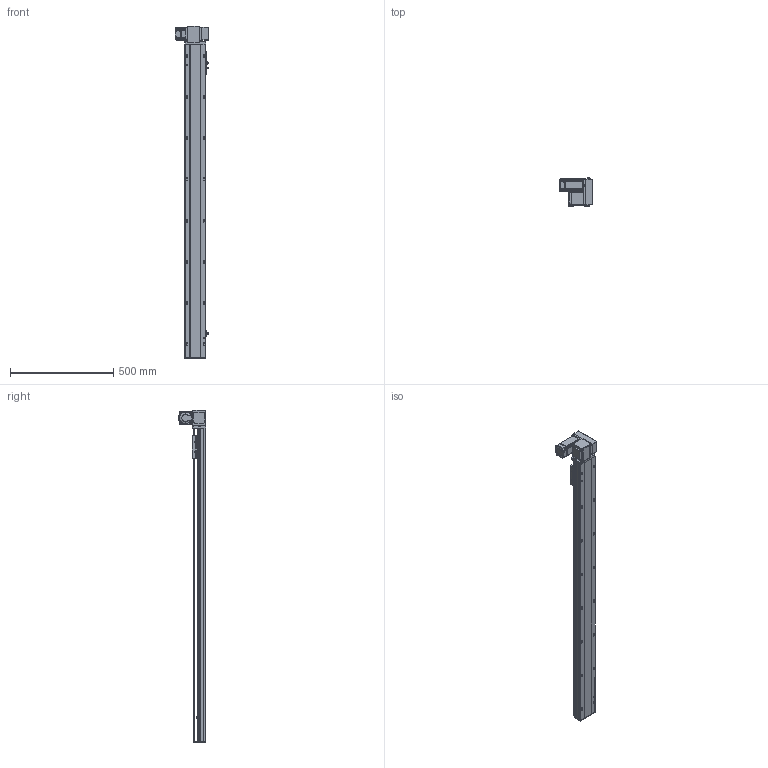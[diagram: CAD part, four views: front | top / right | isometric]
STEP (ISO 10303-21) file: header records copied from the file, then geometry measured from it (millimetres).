
FILE_DESCRIPTION (( 'STEP AP214' ), '1' );
FILE_NAME ('TPT10-L32-1300-RU-T10-C4.STEP', '2023-03-03T11:53:18', ( '' ), ( '' ), 'SwSTEP 2.0', 'SolidWorks 2020', '' );
FILE_SCHEMA (( 'AUTOMOTIVE_DESIGN' ));
Length unit declared in the file: millimetre
Products named in the file (12): hexagon socket head cap screws gb_GB_FASTENER_SCREWS_HSHCS M3X6-N; 葩璃 侂狟400W^TPT10-L32-RU-T10-C4; hex nuts, style 1-grades ab gb_GB_FASTENER_NUT_SNAB1 M3-N; 葩璃 TPT10-L-009 萇儂啣^TPT10-L32-RU-T10-C4_100W; 葩璃 TPT10-L-005 賑釱MZ-102A-03^TPT10-L32-RU-T10-C4; 葩璃 侂狟100W^TPT10-L32-RU-T10-C4; 葩璃 TPT10-L-002 奻裔MZ-102A-02^TPT10-L32-RU-T10-C4; 葩璃 TPT10-L-001 菁釱MZ-102A-01^TPT10-L32-RU-T10-C4; TPT10-L32-1300-RU-T10-C4; hexagon head bolts-full thread gb_GB_FASTENER_BOLT_STBAB A M5X16-N; 葩璃 TPT10-L-007 々湍釱MZ-169x88^TPT10-L32-RU-T10-C4_L; 葩璃 pm-t65-672^TPT10-L32-RU-T10-C4
Assembly tree (23 placements, depth 2):
  TPT10-L32-1300-RU-T10-C4
    葩璃 TPT10-L-001 菁釱MZ-102A-01^TPT10-L32-RU-T10-C4
    葩璃 TPT10-L-002 奻裔MZ-102A-02^TPT10-L32-RU-T10-C4
    葩璃 TPT10-L-007 々湍釱MZ-169x88^TPT10-L32-RU-T10-C4_L
    葩璃 TPT10-L-005 賑釱MZ-102A-03^TPT10-L32-RU-T10-C4
    葩璃 TPT10-L-009 萇儂啣^TPT10-L32-RU-T10-C4_100W
    葩璃 pm-t65-672^TPT10-L32-RU-T10-C4  x3
    葩璃 侂狟100W^TPT10-L32-RU-T10-C4
    葩璃 侂狟400W^TPT10-L32-RU-T10-C4
    hexagon head bolts-full thread gb_GB_FASTENER_BOLT_STBAB A M5X16-N
    hexagon socket head cap screws gb_GB_FASTENER_SCREWS_HSHCS M3X6-N  x6
    hex nuts, style 1-grades ab gb_GB_FASTENER_NUT_SNAB1 M3-N  x6
Bounding box: 160.7 x 134.65 x 1610 mm (x, y, z)
Volume: 5375844.5 mm3; surface area: 1056774.7 mm2
Topology: 31 solids, 31 shells, 1961 faces, 5143 edges, 3285 vertices
Faces by surface type: plane 1062, cylinder 647, cone 206, bspline 34, torus 12
Entity records: 50049 total; most frequent: CARTESIAN_POINT 9880, DIRECTION 8174, ORIENTED_EDGE 7886, EDGE_CURVE 3943, AXIS2_PLACEMENT_3D 2884, VERTEX_POINT 2576, VECTOR 2406, LINE 2406
